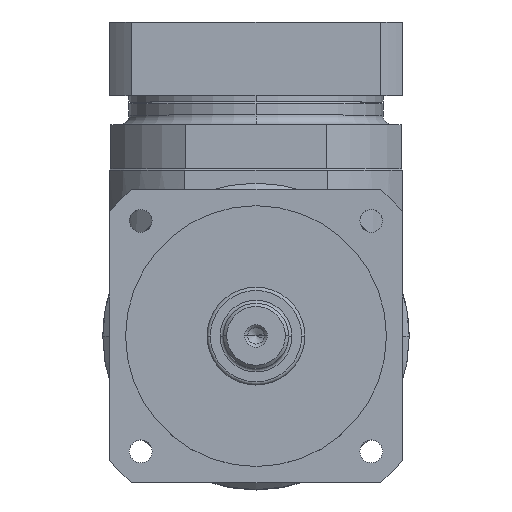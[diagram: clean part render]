
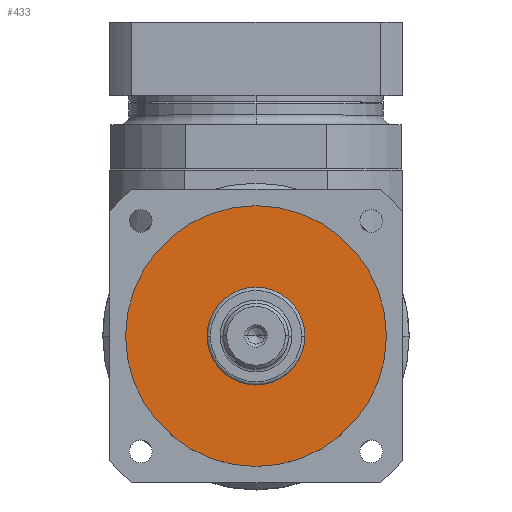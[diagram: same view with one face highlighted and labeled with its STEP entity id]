
A CAD part, top view. The second image highlights one B-rep face of the part: STEP entity #433.
In plain terms, the highlighted planar face has unit normal (0, 0, 1).
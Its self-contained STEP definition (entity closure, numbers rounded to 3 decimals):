
#362 = EDGE_LOOP ( 'NONE', ( #1221, #526 ) ) ;
#433 = ADVANCED_FACE ( 'NONE', ( #1157, #3182 ), #2805, .T. ) ;
#526 = ORIENTED_EDGE ( 'NONE', *, *, #835, .T. ) ;
#566 = AXIS2_PLACEMENT_3D ( 'NONE', #4491, #3261, #4116 ) ;
#718 = VERTEX_POINT ( 'NONE', #3436 ) ;
#751 = DIRECTION ( 'NONE',  ( 0., 0., 1. ) ) ;
#800 = ORIENTED_EDGE ( 'NONE', *, *, #2849, .F. ) ;
#835 = EDGE_CURVE ( 'NONE', #718, #5014, #3803, .T. ) ;
#1141 = AXIS2_PLACEMENT_3D ( 'NONE', #5010, #2077, #2108 ) ;
#1157 = FACE_BOUND ( 'NONE', #5234, .T. ) ;
#1221 = ORIENTED_EDGE ( 'NONE', *, *, #3926, .T. ) ;
#1242 = CARTESIAN_POINT ( 'NONE',  ( 0., 0., 13. ) ) ;
#1267 = DIRECTION ( 'NONE',  ( 1., 0., 0. ) ) ;
#1529 = CARTESIAN_POINT ( 'NONE',  ( 15., 0., 13. ) ) ;
#1557 = VERTEX_POINT ( 'NONE', #4704 ) ;
#2077 = DIRECTION ( 'NONE',  ( 0., 0., 1. ) ) ;
#2104 = CIRCLE ( 'NONE', #1141, 15. ) ;
#2108 = DIRECTION ( 'NONE',  ( 1., 0., 0. ) ) ;
#2402 = DIRECTION ( 'NONE',  ( 1., 0., 0. ) ) ;
#2454 = CARTESIAN_POINT ( 'NONE',  ( 0., 0., 13. ) ) ;
#2805 = PLANE ( 'NONE',  #4822 ) ;
#2849 = EDGE_CURVE ( 'NONE', #4177, #1557, #2104, .T. ) ;
#2863 = CARTESIAN_POINT ( 'NONE',  ( -40., 0., 13. ) ) ;
#3182 = FACE_OUTER_BOUND ( 'NONE', #362, .T. ) ;
#3261 = DIRECTION ( 'NONE',  ( 0., 0., 1. ) ) ;
#3324 = ORIENTED_EDGE ( 'NONE', *, *, #5045, .F. ) ;
#3436 = CARTESIAN_POINT ( 'NONE',  ( 40., 0., 13. ) ) ;
#3746 = CIRCLE ( 'NONE', #4329, 40. ) ;
#3803 = CIRCLE ( 'NONE', #4206, 40. ) ;
#3926 = EDGE_CURVE ( 'NONE', #5014, #718, #3746, .T. ) ;
#4039 = DIRECTION ( 'NONE',  ( 1., 0., 0. ) ) ;
#4116 = DIRECTION ( 'NONE',  ( 1., 0., 0. ) ) ;
#4177 = VERTEX_POINT ( 'NONE', #1529 ) ;
#4206 = AXIS2_PLACEMENT_3D ( 'NONE', #2454, #5252, #4039 ) ;
#4329 = AXIS2_PLACEMENT_3D ( 'NONE', #1242, #4511, #1267 ) ;
#4432 = CARTESIAN_POINT ( 'NONE',  ( 0., 0., 13. ) ) ;
#4491 = CARTESIAN_POINT ( 'NONE',  ( 0., 0., 13. ) ) ;
#4511 = DIRECTION ( 'NONE',  ( 0., 0., 1. ) ) ;
#4531 = CIRCLE ( 'NONE', #566, 15. ) ;
#4704 = CARTESIAN_POINT ( 'NONE',  ( -15., 0., 13. ) ) ;
#4822 = AXIS2_PLACEMENT_3D ( 'NONE', #4432, #751, #2402 ) ;
#5010 = CARTESIAN_POINT ( 'NONE',  ( 0., 0., 13. ) ) ;
#5014 = VERTEX_POINT ( 'NONE', #2863 ) ;
#5045 = EDGE_CURVE ( 'NONE', #1557, #4177, #4531, .T. ) ;
#5234 = EDGE_LOOP ( 'NONE', ( #800, #3324 ) ) ;
#5252 = DIRECTION ( 'NONE',  ( 0., 0., 1. ) ) ;
